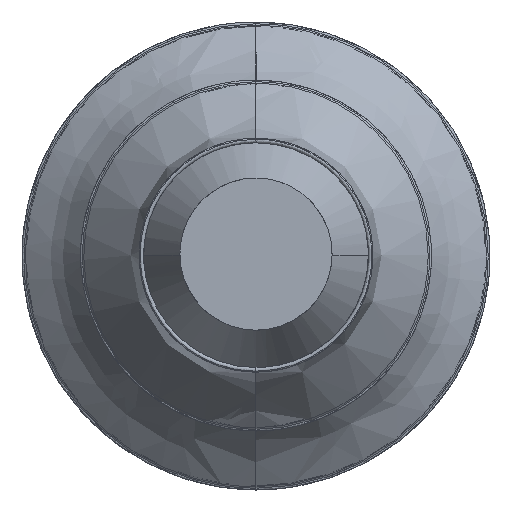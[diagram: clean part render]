
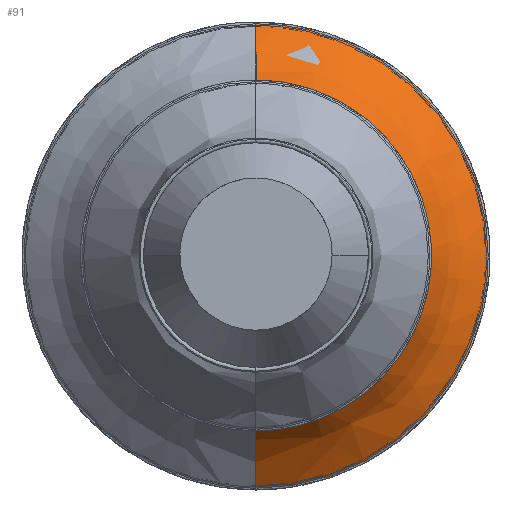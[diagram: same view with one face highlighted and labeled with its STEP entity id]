
A CAD part, top view. The second image highlights one B-rep face of the part: STEP entity #91.
In plain terms, the highlighted free-form (B-spline) face has degree [2, 2] with [3, 5] control points.
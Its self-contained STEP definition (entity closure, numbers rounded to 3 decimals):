
#91=ADVANCED_FACE($,(#166),#985,.T.);
#166=FACE_OUTER_BOUND($,#241,.T.);
#241=EDGE_LOOP($,(#532,#533,#534,#535,#536));
#532=ORIENTED_EDGE($,*,*,#746,.F.);
#533=ORIENTED_EDGE($,*,*,#745,.T.);
#534=ORIENTED_EDGE($,*,*,#748,.T.);
#535=ORIENTED_EDGE($,*,*,#747,.T.);
#536=ORIENTED_EDGE($,*,*,#761,.F.);
#745=EDGE_CURVE($,#882,#884,#1127,.T.);
#746=EDGE_CURVE($,#882,#890,#1128,.T.);
#747=EDGE_CURVE($,#883,#891,#1129,.T.);
#748=EDGE_CURVE($,#884,#883,#1130,.T.);
#761=EDGE_CURVE($,#890,#891,#1143,.T.);
#882=VERTEX_POINT($,#2844);
#883=VERTEX_POINT($,#2845);
#884=VERTEX_POINT($,#2846);
#890=VERTEX_POINT($,#2852);
#891=VERTEX_POINT($,#2853);
#985=(
BOUNDED_SURFACE()
B_SPLINE_SURFACE(2,2,((#2770,#2771,#2772,#2773,#2774),(#2775,#2776,#2777,
#2778,#2779),(#2780,#2781,#2782,#2783,#2784)),.UNSPECIFIED.,.F.,.F.,.F.)
B_SPLINE_SURFACE_WITH_KNOTS((3,3),(3,2,3),(0.,258.983),(0.,921.657,
1843.315),.UNSPECIFIED.)
GEOMETRIC_REPRESENTATION_ITEM()
RATIONAL_B_SPLINE_SURFACE(((1.,0.707,1.,0.707,1.),
(0.816,0.577,0.816,0.577,
0.816),(0.863,0.611,0.863,
0.611,0.863)))
REPRESENTATION_ITEM($)
SURFACE()
);
#1127=(
BOUNDED_CURVE()
B_SPLINE_CURVE(2,(#2531,#2532,#2533),.UNSPECIFIED.,.F.,.F.)
B_SPLINE_CURVE_WITH_KNOTS((3,3),(0.,258.983),.UNSPECIFIED.)
CURVE()
GEOMETRIC_REPRESENTATION_ITEM()
RATIONAL_B_SPLINE_CURVE((1.,0.878,1.))
REPRESENTATION_ITEM($)
);
#1128=(
BOUNDED_CURVE()
B_SPLINE_CURVE(2,(#2534,#2535,#2536,#2537,#2538),.UNSPECIFIED.,.F.,.F.)
B_SPLINE_CURVE_WITH_KNOTS((3,2,3),(0.,921.657,1843.315),
.UNSPECIFIED.)
CURVE()
GEOMETRIC_REPRESENTATION_ITEM()
RATIONAL_B_SPLINE_CURVE((1.,0.707,1.,0.707,1.))
REPRESENTATION_ITEM($)
);
#1129=(
BOUNDED_CURVE()
B_SPLINE_CURVE(2,(#2539,#2540,#2541),.UNSPECIFIED.,.F.,.F.)
B_SPLINE_CURVE_WITH_KNOTS((3,3),(-6.283,-4.712),.UNSPECIFIED.)
CURVE()
GEOMETRIC_REPRESENTATION_ITEM()
RATIONAL_B_SPLINE_CURVE((1.,0.707,1.))
REPRESENTATION_ITEM($)
);
#1130=(
BOUNDED_CURVE()
B_SPLINE_CURVE(2,(#2542,#2543,#2544),.UNSPECIFIED.,.F.,.F.)
B_SPLINE_CURVE_WITH_KNOTS((3,3),(-1.571,0.),.UNSPECIFIED.)
CURVE()
GEOMETRIC_REPRESENTATION_ITEM()
RATIONAL_B_SPLINE_CURVE((1.,0.707,1.))
REPRESENTATION_ITEM($)
);
#1143=(
BOUNDED_CURVE()
B_SPLINE_CURVE(2,(#2591,#2592,#2593),.UNSPECIFIED.,.F.,.F.)
B_SPLINE_CURVE_WITH_KNOTS((3,3),(0.,258.983),.UNSPECIFIED.)
CURVE()
GEOMETRIC_REPRESENTATION_ITEM()
RATIONAL_B_SPLINE_CURVE((1.,0.878,1.))
REPRESENTATION_ITEM($)
);
#2531=CARTESIAN_POINT($,(10180.729,6474.751,-1158.009));
#2532=CARTESIAN_POINT($,(10180.729,6474.751,-1251.024));
#2533=CARTESIAN_POINT($,(10180.729,6396.495,-1301.298));
#2534=CARTESIAN_POINT($,(10180.729,6474.751,-1158.009));
#2535=CARTESIAN_POINT($,(10300.936,6474.751,-1158.009));
#2536=CARTESIAN_POINT($,(10300.936,6594.958,-1158.009));
#2537=CARTESIAN_POINT($,(10300.936,6715.165,-1158.009));
#2538=CARTESIAN_POINT($,(10180.729,6715.165,-1158.009));
#2539=CARTESIAN_POINT($,(10379.192,6594.958,-1301.298));
#2540=CARTESIAN_POINT($,(10379.192,6793.421,-1301.298));
#2541=CARTESIAN_POINT($,(10180.729,6793.421,-1301.298));
#2542=CARTESIAN_POINT($,(10180.729,6396.495,-1301.298));
#2543=CARTESIAN_POINT($,(10379.192,6396.495,-1301.298));
#2544=CARTESIAN_POINT($,(10379.192,6594.958,-1301.298));
#2591=CARTESIAN_POINT($,(10180.729,6715.165,-1158.009));
#2592=CARTESIAN_POINT($,(10180.729,6715.165,-1251.024));
#2593=CARTESIAN_POINT($,(10180.729,6793.421,-1301.298));
#2770=CARTESIAN_POINT($,(10180.729,6474.751,-1158.009));
#2771=CARTESIAN_POINT($,(10300.936,6474.751,-1158.009));
#2772=CARTESIAN_POINT($,(10300.936,6594.958,-1158.009));
#2773=CARTESIAN_POINT($,(10300.936,6715.165,-1158.009));
#2774=CARTESIAN_POINT($,(10180.729,6715.165,-1158.009));
#2775=CARTESIAN_POINT($,(10180.729,6474.751,-1251.024));
#2776=CARTESIAN_POINT($,(10300.936,6474.751,-1251.024));
#2777=CARTESIAN_POINT($,(10300.936,6594.958,-1251.024));
#2778=CARTESIAN_POINT($,(10300.936,6715.165,-1251.024));
#2779=CARTESIAN_POINT($,(10180.729,6715.165,-1251.024));
#2780=CARTESIAN_POINT($,(10180.729,6396.495,-1301.298));
#2781=CARTESIAN_POINT($,(10379.192,6396.495,-1301.298));
#2782=CARTESIAN_POINT($,(10379.192,6594.958,-1301.298));
#2783=CARTESIAN_POINT($,(10379.192,6793.421,-1301.298));
#2784=CARTESIAN_POINT($,(10180.729,6793.421,-1301.298));
#2844=CARTESIAN_POINT($,(10180.729,6474.751,-1158.009));
#2845=CARTESIAN_POINT($,(10379.192,6594.958,-1301.298));
#2846=CARTESIAN_POINT($,(10180.729,6396.495,-1301.298));
#2852=CARTESIAN_POINT($,(10180.729,6715.165,-1158.009));
#2853=CARTESIAN_POINT($,(10180.729,6793.421,-1301.298));
